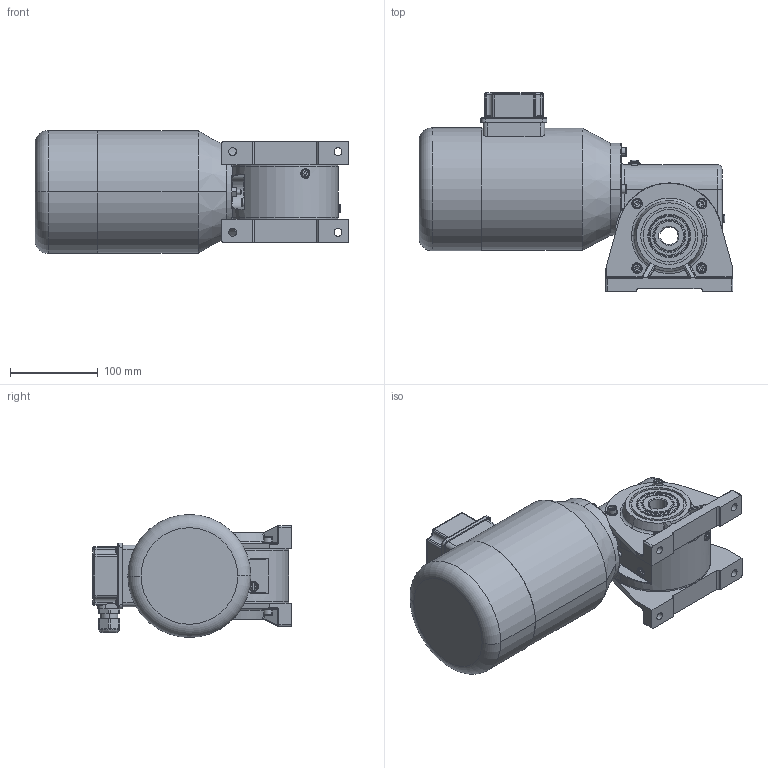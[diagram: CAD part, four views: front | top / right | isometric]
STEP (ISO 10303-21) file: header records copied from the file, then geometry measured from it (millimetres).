
FILE_DESCRIPTION (( 'STEP AP214' ), '1' );
FILE_NAME ('SN8BFH_250W_1400Upm_Drehstrom-Motor_D.STEP', '2021-07-23T09:07:11', ( '' ), ( '' ), 'SwSTEP 2.0', 'SolidWorks 2019', '' );
FILE_SCHEMA (( 'AUTOMOTIVE_DESIGN' ));
Length unit declared in the file: millimetre
Products named in the file (13): SN8SHH_3D_Export; U-Seal Ring Ø5; slotted pan head screw_din_DIN EN ISO 1580 - M5 x 6 - 6C; 08B-G-003_3D_Export; SN8BFH_250W_1400Upm_Drehstrom-Motor_D; socket set screw flat point_din_DIN 913 - M6 x 25-C; socket head cap screw_din_DIN 912 M6 x 20 --- 20C; NBR_WDR_35x47x7; 08-M-165 I 250W_1400Upm; 08FH-W-001_3D_Export; Kupferscheibe Ø6x12x1,5 DIN7603 A; 08SHH-D-001_3D_Export; hex nut style 1 gradeab_din_Hexagon Nut ISO 4032 - M6 - D - C
Assembly tree (37 placements, depth 3):
  SN8BFH_250W_1400Upm_Drehstrom-Motor_D
    SN8SHH_3D_Export
      08B-G-003_3D_Export
      08FH-W-001_3D_Export
      08SHH-D-001_3D_Export  x2
      NBR_WDR_35x47x7  x2
      socket head cap screw_din_DIN 912 M6 x 20 --- 20C  x11
      slotted pan head screw_din_DIN EN ISO 1580 - M5 x 6 - 6C  x4
      socket set screw flat point_din_DIN 913 - M6 x 25-C
      hex nut style 1 gradeab_din_Hexagon Nut ISO 4032 - M6 - D - C
      Kupferscheibe Ø6x12x1,5 DIN7603 A  x8
      U-Seal Ring Ø5  x4
    08-M-165 I 250W_1400Upm
Bounding box: 357.5 x 226 x 140 mm (x, y, z)
Volume: 4584033.6 mm3; surface area: 367539.4 mm2
Topology: 38 solids, 38 shells, 1453 faces, 3495 edges, 2158 vertices
Faces by surface type: plane 479, cylinder 465, torus 200, cone 191, bspline 94, sphere 24
Entity records: 32691 total; most frequent: CARTESIAN_POINT 9444, DIRECTION 4862, ORIENTED_EDGE 4680, EDGE_CURVE 2340, AXIS2_PLACEMENT_3D 1986, VERTEX_POINT 1483, CIRCLE 1080, EDGE_LOOP 1035
